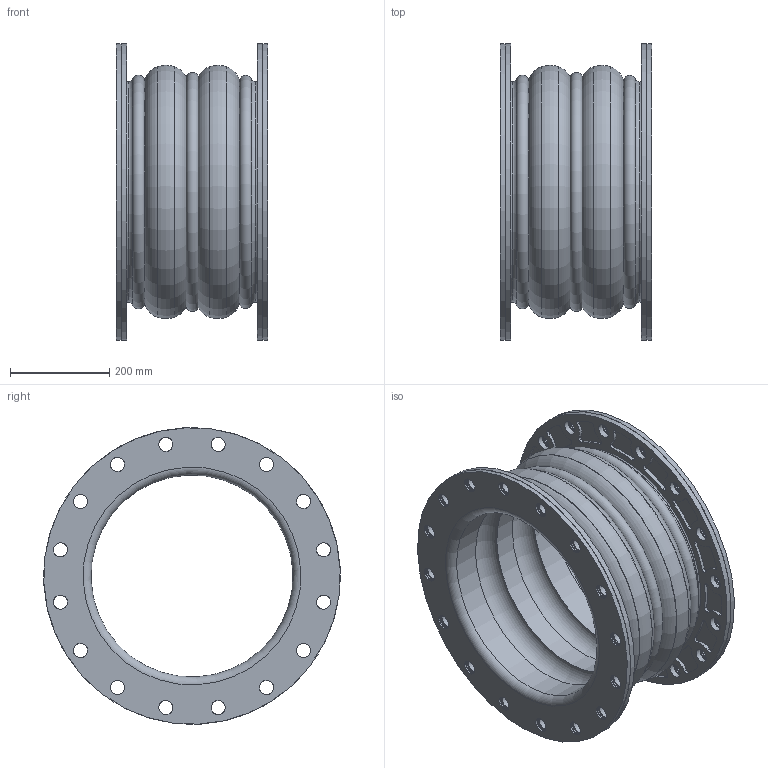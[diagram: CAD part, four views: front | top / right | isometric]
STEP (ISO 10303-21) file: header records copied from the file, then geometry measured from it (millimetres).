
FILE_DESCRIPTION((''),'2;1');
FILE_NAME('C:\2011_Work\Designs\Mercer\Stock Joints\450 Style\452\STEP\Style452 16x12.stp','2013-07-26T17:24:15',('mquog'),(''),'Autodesk Inventor 2011','Autodesk Inventor 2011','');
FILE_SCHEMA(('AUTOMOTIVE_DESIGN { 1 0 10303 214 1 1 1 1 }'));
Length unit declared in the file: inch
Products named in the file (4): Style452 16x12; 16DI450BUR150; 16_MBR; 452 16x12
Assembly tree (4 placements, depth 2):
  Style452 16x12
    16DI450BUR150  x2
    16_MBR
    452 16x12
Bounding box: 304.8 x 596.8 x 596.8 mm (x, y, z)
Volume: 15334816.7 mm3; surface area: 11845712.6 mm2
Topology: 36 solids, 36 shells, 812 faces, 2038 edges, 1326 vertices
Faces by surface type: cylinder 605, torus 103, plane 100, cone 4
Full cylindrical faces by diameter (mm): 28.575 x225, 406.4 x3, 412.75 x6, 419.1 x12, 422.961 x6, 426.822 x6, 429.997 x3, 438.15 x8, 590.55 x12, 596.9 x2, 596.946 x2
Entity records: 17786 total; most frequent: DIRECTION 3324, CARTESIAN_POINT 2705, ORIENTED_EDGE 2248, AXIS2_PLACEMENT_3D 1582, EDGE_LOOP 1477, EDGE_CURVE 1124, CIRCLE 964, VERTEX_POINT 963
